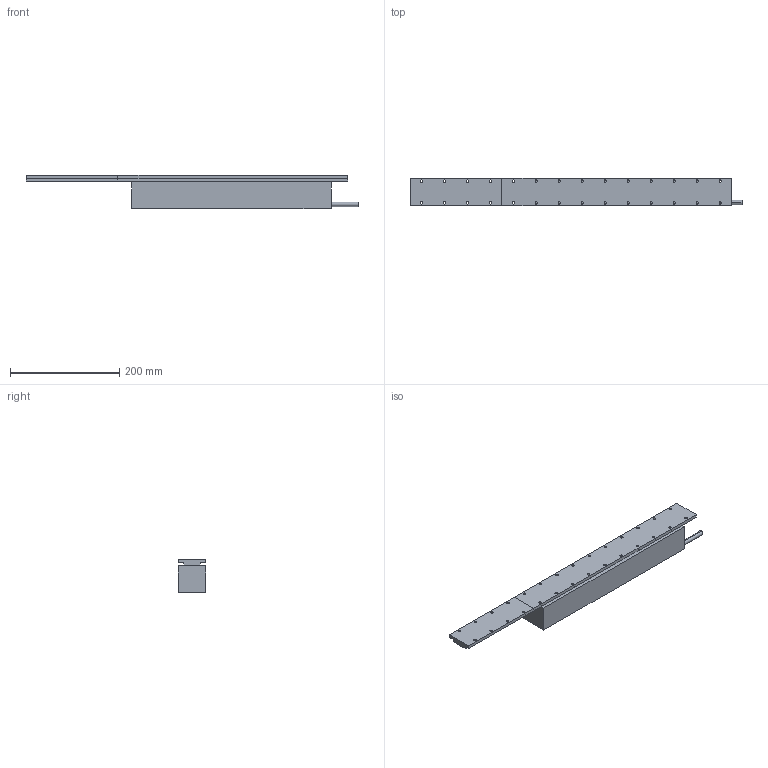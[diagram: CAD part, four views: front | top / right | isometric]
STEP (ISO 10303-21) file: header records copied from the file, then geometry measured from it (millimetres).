
FILE_DESCRIPTION (( 'STEP AP214' ), '1' );
FILE_NAME ('FLM-51-364蚾饜极.STEP', '2022-05-12T08:00:58', ( 'Microsoft' ), ( 'Microsoft' ), 'SwSTEP 2.0', 'SolidWorks 2016', '' );
FILE_SCHEMA (( 'AUTOMOTIVE_DESIGN' ));
Length unit declared in the file: millimetre
Products named in the file (4): TLM-50-L420; TLM-50-L168; FLM-51-364; FLM-51-364蚾饜极
Assembly tree (3 placements, depth 2):
  FLM-51-364蚾饜极
    FLM-51-364
    TLM-50-L420
    TLM-50-L168
Bounding box: 606.75 x 51 x 61.1 mm (x, y, z)
Volume: 1175508.6 mm3; surface area: 156398.4 mm2
Topology: 3 solids, 3 shells, 265 faces, 642 edges, 388 vertices
Faces by surface type: cylinder 162, plane 55, cone 48
Entity records: 8778 total; most frequent: DIRECTION 1460, CARTESIAN_POINT 1253, ORIENTED_EDGE 1188, AXIS2_PLACEMENT_3D 595, EDGE_CURVE 594, VERTEX_POINT 388, EDGE_LOOP 374, CIRCLE 324
